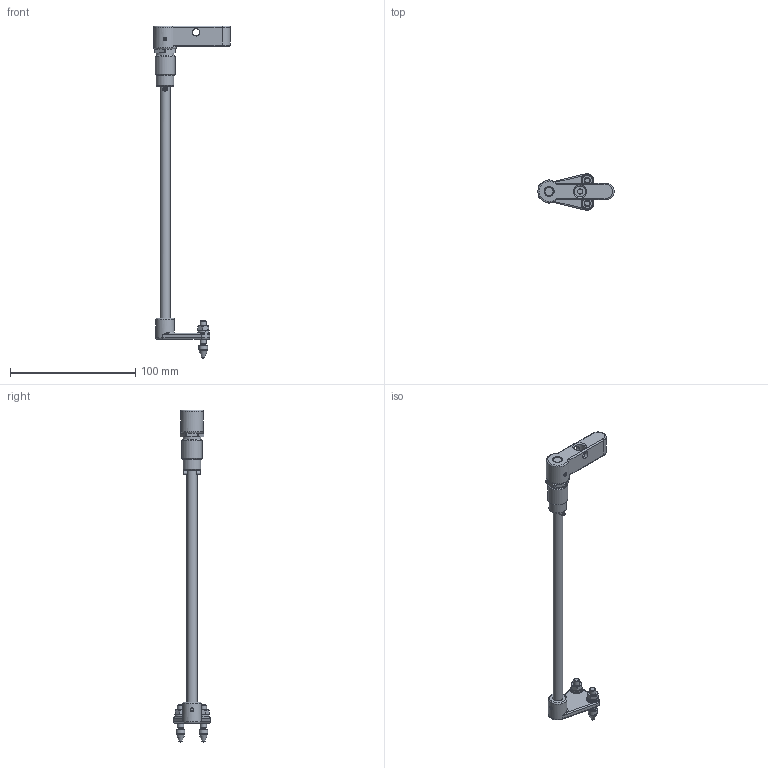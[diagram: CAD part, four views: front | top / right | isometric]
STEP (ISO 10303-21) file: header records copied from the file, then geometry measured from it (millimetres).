
FILE_DESCRIPTION((''),'2;1');
FILE_NAME('C:\Users\A.V.Nesterov\Desktop\111\3D\ТЗ\ТЗ 112158\РГВ09_М16_3D1.stp','2024-10-01T12:46:56',('A.V.Nesterov'),(''),'Autodesk Inventor 2012','Autodesk Inventor 2012','');
FILE_SCHEMA(('AUTOMOTIVE_DESIGN { 1 0 10303 214 1 1 1 1 }'));
Length unit declared in the file: millimetre
Products named in the file (1): РГВ09_М16_3D
Bounding box: 60.98 x 29.38 x 265.3 mm (x, y, z)
Surface area: 19952 mm2 (no closed solid volume)
Topology: 0 solids, 15 shells, 214 faces, 459 edges, 281 vertices
Faces by surface type: plane 75, cylinder 64, cone 51, torus 14, bspline 10
Full cylindrical faces by diameter (mm): 3 x6, 4 x2, 4.1 x1, 4.134 x2, 4.2 x2, 5 x2, 5.3 x2, 6 x2, 7 x2, 8 x5, 8.8 x1, 10 x2, 11.5 x1, 14 x1, 14.2 x1, 14.8 x1, 16 x1, 18 x1
Entity records: 8629 total; most frequent: CARTESIAN_POINT 4357, DIRECTION 882, ORIENTED_EDGE 766, AXIS2_PLACEMENT_3D 385, EDGE_CURVE 383, EDGE_LOOP 319, VERTEX_POINT 268, FACE_OUTER_BOUND 214
